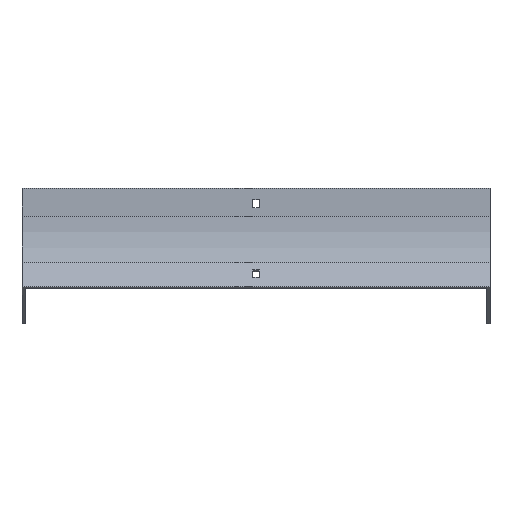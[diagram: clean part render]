
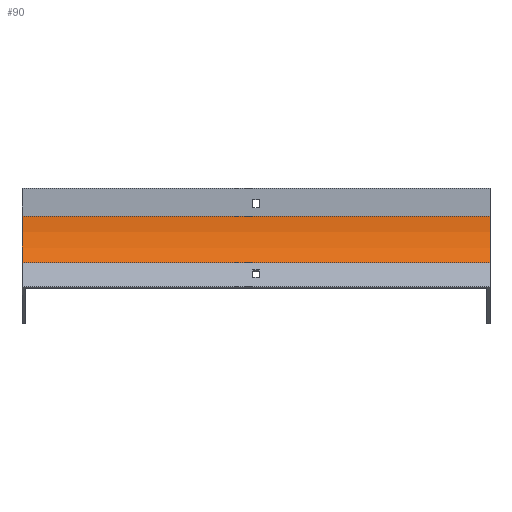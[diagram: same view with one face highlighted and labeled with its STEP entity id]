
A CAD part, front view. The second image highlights one B-rep face of the part: STEP entity #90.
In plain terms, the highlighted cylindrical face has radius 100 mm (diameter 200 mm), a partial arc.
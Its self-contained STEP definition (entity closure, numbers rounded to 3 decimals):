
#12 = CARTESIAN_POINT ( 'NONE',  ( 252., 0., -30. ) ) ;
#90 = ADVANCED_FACE ( 'NONE', ( #523 ), #1909, .F. ) ;
#229 = DIRECTION ( 'NONE',  ( -1., 0., 0. ) ) ;
#444 = LINE ( 'NONE', #1039, #576 ) ;
#445 = CIRCLE ( 'NONE', #1556, 100. ) ;
#469 = DIRECTION ( 'NONE',  ( -1., 0., 0. ) ) ;
#523 = FACE_OUTER_BOUND ( 'NONE', #785, .T. ) ;
#529 = DIRECTION ( 'NONE',  ( 0., 0., 1. ) ) ;
#531 = ORIENTED_EDGE ( 'NONE', *, *, #740, .T. ) ;
#576 = VECTOR ( 'NONE', #1951, 1000. ) ;
#614 = LINE ( 'NONE', #1211, #642 ) ;
#642 = VECTOR ( 'NONE', #469, 1000. ) ;
#655 = CARTESIAN_POINT ( 'NONE',  ( 252., -100., -30. ) ) ;
#681 = DIRECTION ( 'NONE',  ( 0., 0., 1. ) ) ;
#707 = CARTESIAN_POINT ( 'NONE',  ( -252., -13.397, -80. ) ) ;
#740 = EDGE_CURVE ( 'NONE', #1275, #1069, #614, .T. ) ;
#779 = ORIENTED_EDGE ( 'NONE', *, *, #1616, .F. ) ;
#785 = EDGE_LOOP ( 'NONE', ( #1705, #779, #1265, #531 ) ) ;
#803 = EDGE_CURVE ( 'NONE', #1275, #806, #445, .T. ) ;
#806 = VERTEX_POINT ( 'NONE', #1453 ) ;
#985 = DIRECTION ( 'NONE',  ( -1., 0., 0. ) ) ;
#1039 = CARTESIAN_POINT ( 'NONE',  ( 252., -13.397, -80. ) ) ;
#1059 = VERTEX_POINT ( 'NONE', #707 ) ;
#1069 = VERTEX_POINT ( 'NONE', #1157 ) ;
#1157 = CARTESIAN_POINT ( 'NONE',  ( -252., 0., -30. ) ) ;
#1168 = DIRECTION ( 'NONE',  ( -1., 0., 0. ) ) ;
#1211 = CARTESIAN_POINT ( 'NONE',  ( 252., 0., -30. ) ) ;
#1265 = ORIENTED_EDGE ( 'NONE', *, *, #803, .F. ) ;
#1275 = VERTEX_POINT ( 'NONE', #12 ) ;
#1298 = CIRCLE ( 'NONE', #1842, 100. ) ;
#1301 = CARTESIAN_POINT ( 'NONE',  ( 252., -100., -30. ) ) ;
#1326 = DIRECTION ( 'NONE',  ( 0., 0., 1. ) ) ;
#1366 = CARTESIAN_POINT ( 'NONE',  ( -252., -100., -30. ) ) ;
#1453 = CARTESIAN_POINT ( 'NONE',  ( 252., -13.397, -80. ) ) ;
#1556 = AXIS2_PLACEMENT_3D ( 'NONE', #655, #985, #529 ) ;
#1580 = AXIS2_PLACEMENT_3D ( 'NONE', #1301, #229, #681 ) ;
#1614 = EDGE_CURVE ( 'NONE', #1069, #1059, #1298, .T. ) ;
#1616 = EDGE_CURVE ( 'NONE', #806, #1059, #444, .T. ) ;
#1705 = ORIENTED_EDGE ( 'NONE', *, *, #1614, .T. ) ;
#1842 = AXIS2_PLACEMENT_3D ( 'NONE', #1366, #1168, #1326 ) ;
#1909 = CYLINDRICAL_SURFACE ( 'NONE', #1580, 100. ) ;
#1951 = DIRECTION ( 'NONE',  ( -1., 0., 0. ) ) ;
